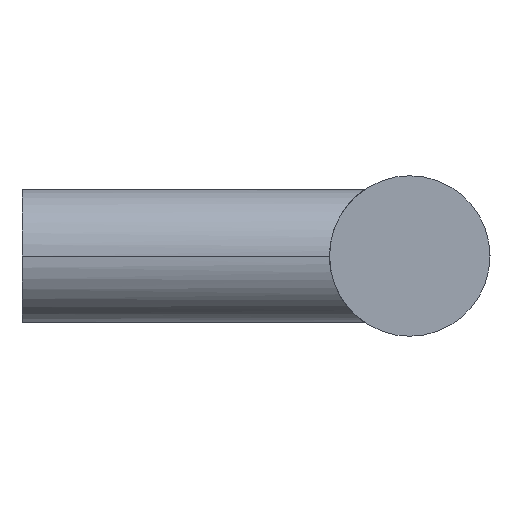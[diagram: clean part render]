
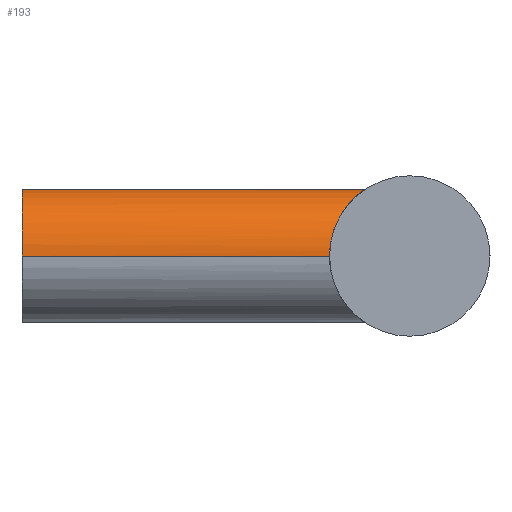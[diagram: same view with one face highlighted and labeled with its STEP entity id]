
A CAD part, left-side view. The second image highlights one B-rep face of the part: STEP entity #193.
In plain terms, the highlighted cylindrical face has radius 5 mm (diameter 10 mm), a partial arc.
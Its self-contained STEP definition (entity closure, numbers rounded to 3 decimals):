
#95 = VERTEX_POINT( '', #253 );
#107 = EDGE_CURVE( '', #151, #149, #267, .T. );
#139 = EDGE_CURVE( '', #95, #151, #302, .T. );
#149 = VERTEX_POINT( '', #313 );
#151 = VERTEX_POINT( '', #315 );
#175 = EDGE_CURVE( '', #183, #95, #344, .T. );
#183 = VERTEX_POINT( '', #353 );
#193 = ADVANCED_FACE( '', ( #365 ), #366, .T. );
#201 = EDGE_CURVE( '', #149, #231, #375, .T. );
#217 = EDGE_CURVE( '', #231, #183, #394, .T. );
#231 = VERTEX_POINT( '', #409 );
#253 = CARTESIAN_POINT( '', ( 5., -23., 0. ) );
#267 = B_SPLINE_CURVE_WITH_KNOTS( '', 3, ( #437, #438, #439, #440, #441, #442, #443, #444, #445, #446, #447, #448, #449, #450, #451, #452, #453, #454 ), .UNSPECIFIED., .F., .F., ( 4, 2, 2, 2, 2, 2, 2, 2, 4 ), ( 0., 1.041, 2.083, 3.124, 4.165, 5.164, 6.163, 7.162, 8.161 ), .UNSPECIFIED. );
#302 = B_SPLINE_CURVE_WITH_KNOTS( '', 3, ( #498, #499, #500, #501, #502, #503, #504, #505, #506, #507, #508, #509, #510, #511, #512, #513, #514, #515 ), .UNSPECIFIED., .F., .F., ( 4, 2, 2, 2, 2, 2, 2, 2, 4 ), ( 24.483, 25.482, 26.481, 27.479, 28.478, 29.52, 30.561, 31.602, 32.643 ), .UNSPECIFIED. );
#313 = CARTESIAN_POINT( '', ( -5., -23., 0. ) );
#315 = CARTESIAN_POINT( '', ( 0., -25.683, 5. ) );
#344 = LINE( '', #602, #603 );
#353 = CARTESIAN_POINT( '', ( 5., 0., 0. ) );
#365 = FACE_OUTER_BOUND( '', #660, .T. );
#366 = CYLINDRICAL_SURFACE( '', #661, 5. );
#375 = LINE( '', #672, #673 );
#394 = CIRCLE( '', #730, 5. );
#409 = CARTESIAN_POINT( '', ( -5., 0., 0. ) );
#437 = CARTESIAN_POINT( '', ( 0., -25.683, 5. ) );
#438 = CARTESIAN_POINT( '', ( -0.347, -25.683, 5. ) );
#439 = CARTESIAN_POINT( '', ( -0.687, -25.627, 4.964 ) );
#440 = CARTESIAN_POINT( '', ( -1.343, -25.436, 4.828 ) );
#441 = CARTESIAN_POINT( '', ( -1.659, -25.301, 4.728 ) );
#442 = CARTESIAN_POINT( '', ( -2.259, -24.995, 4.472 ) );
#443 = CARTESIAN_POINT( '', ( -2.544, -24.825, 4.316 ) );
#444 = CARTESIAN_POINT( '', ( -3.073, -24.483, 3.957 ) );
#445 = CARTESIAN_POINT( '', ( -3.317, -24.311, 3.754 ) );
#446 = CARTESIAN_POINT( '', ( -3.745, -24., 3.326 ) );
#447 = CARTESIAN_POINT( '', ( -3.946, -23.847, 3.088 ) );
#448 = CARTESIAN_POINT( '', ( -4.306, -23.566, 2.561 ) );
#449 = CARTESIAN_POINT( '', ( -4.467, -23.437, 2.272 ) );
#450 = CARTESIAN_POINT( '', ( -4.728, -23.225, 1.659 ) );
#451 = CARTESIAN_POINT( '', ( -4.83, -23.141, 1.335 ) );
#452 = CARTESIAN_POINT( '', ( -4.966, -23.028, 0.672 ) );
#453 = CARTESIAN_POINT( '', ( -5., -23., 0.333 ) );
#454 = CARTESIAN_POINT( '', ( -5., -23., 0. ) );
#498 = CARTESIAN_POINT( '', ( 5., -23., 0. ) );
#499 = CARTESIAN_POINT( '', ( 5., -23., 0.333 ) );
#500 = CARTESIAN_POINT( '', ( 4.966, -23.028, 0.672 ) );
#501 = CARTESIAN_POINT( '', ( 4.83, -23.141, 1.335 ) );
#502 = CARTESIAN_POINT( '', ( 4.728, -23.225, 1.659 ) );
#503 = CARTESIAN_POINT( '', ( 4.467, -23.437, 2.272 ) );
#504 = CARTESIAN_POINT( '', ( 4.306, -23.566, 2.561 ) );
#505 = CARTESIAN_POINT( '', ( 3.946, -23.847, 3.088 ) );
#506 = CARTESIAN_POINT( '', ( 3.745, -24., 3.326 ) );
#507 = CARTESIAN_POINT( '', ( 3.317, -24.311, 3.754 ) );
#508 = CARTESIAN_POINT( '', ( 3.073, -24.483, 3.957 ) );
#509 = CARTESIAN_POINT( '', ( 2.544, -24.825, 4.316 ) );
#510 = CARTESIAN_POINT( '', ( 2.259, -24.995, 4.472 ) );
#511 = CARTESIAN_POINT( '', ( 1.659, -25.301, 4.728 ) );
#512 = CARTESIAN_POINT( '', ( 1.343, -25.436, 4.828 ) );
#513 = CARTESIAN_POINT( '', ( 0.687, -25.627, 4.964 ) );
#514 = CARTESIAN_POINT( '', ( 0.347, -25.683, 5. ) );
#515 = CARTESIAN_POINT( '', ( 0., -25.683, 5. ) );
#602 = CARTESIAN_POINT( '', ( 5., 0., 0. ) );
#603 = VECTOR( '', #851, 1. );
#660 = EDGE_LOOP( '', ( #874, #875, #876, #877, #878 ) );
#661 = AXIS2_PLACEMENT_3D( '', #879, #880, #881 );
#672 = CARTESIAN_POINT( '', ( -5., 0., 0. ) );
#673 = VECTOR( '', #893, 1. );
#730 = AXIS2_PLACEMENT_3D( '', #920, #921, #922 );
#851 = DIRECTION( '', ( 0., -1., 0. ) );
#874 = ORIENTED_EDGE( '', *, *, #175, .F. );
#875 = ORIENTED_EDGE( '', *, *, #217, .F. );
#876 = ORIENTED_EDGE( '', *, *, #201, .F. );
#877 = ORIENTED_EDGE( '', *, *, #107, .F. );
#878 = ORIENTED_EDGE( '', *, *, #139, .F. );
#879 = CARTESIAN_POINT( '', ( 0., 0., 0. ) );
#880 = DIRECTION( '', ( 0., 1., 0. ) );
#881 = DIRECTION( '', ( 1., 0., 0. ) );
#893 = DIRECTION( '', ( 0., 1., 0. ) );
#920 = CARTESIAN_POINT( '', ( 0., 0., 0. ) );
#921 = DIRECTION( '', ( 0., 1., 0. ) );
#922 = DIRECTION( '', ( 1., 0., 0. ) );
